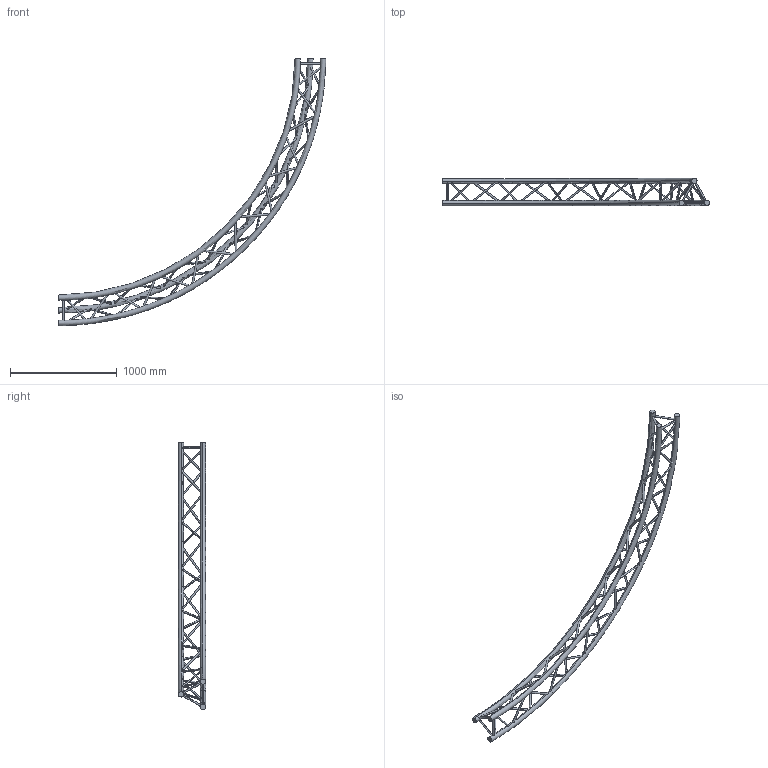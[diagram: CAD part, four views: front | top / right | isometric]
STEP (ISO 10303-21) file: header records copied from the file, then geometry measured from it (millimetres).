
FILE_DESCRIPTION (( 'STEP AP203' ), '1' );
FILE_NAME ('SXC29500PH.STEP', '2009-10-21T08:22:31', ( 'CEDIA' ), ( 'CEDIA INDUSTRIE' ), 'SwSTEP 2.0', 'SolidWorks 2009', '' );
FILE_SCHEMA (( 'CONFIG_CONTROL_DESIGN' ));
Length unit declared in the file: millimetre
Products named in the file (1): SXC29500PH
Bounding box: 2500 x 255.25 x 2500 mm (x, y, z)
Volume: 24430038.9 mm3; surface area: 2385675.2 mm2
Topology: 1 solids, 1 shells, 114 faces, 358 edges, 216 vertices
Faces by surface type: cylinder 102, torus 6, plane 6
Entity records: 13289 total; most frequent: CARTESIAN_POINT 10263, ORIENTED_EDGE 716, DIRECTION 436, EDGE_CURVE 358, VERTEX_POINT 216, B_SPLINE_CURVE_WITH_KNOTS 204, EDGE_LOOP 182, AXIS2_PLACEMENT_3D 167
